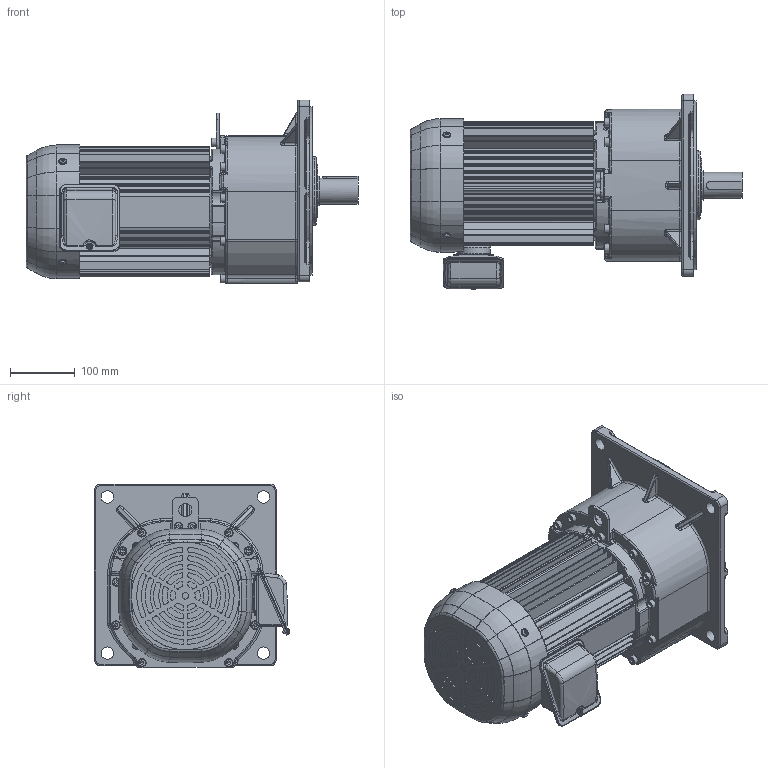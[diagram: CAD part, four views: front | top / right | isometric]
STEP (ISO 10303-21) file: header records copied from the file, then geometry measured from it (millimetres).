
FILE_DESCRIPTION( ( 'Unknown' ), '1' );
FILE_NAME( 'X:/gear/gm/3D-WEB/IE3/SP/ﾊﾟｰﾂ/完成品/spf_22_40-50.stp', 'Unknown', ( 'Unknown' ), ( 'Unknown' ), 'PSStep 14.0', 'Unknown', ' ' );
FILE_SCHEMA( ( 'AUTOMOTIVE_DESIGN { 1 0 10303 214 1 1 1 1 }' ) );
Length unit declared in the file: millimetre
Products named in the file (7): PF08923_Gﾊﾟｯｷﾝ(J40)
Bounding box: 511 x 300.35 x 283 mm (x, y, z)
Volume: 8104361.2 mm3; surface area: 1274565.3 mm2
Topology: 7 solids, 36 shells, 2177 faces, 5347 edges, 3282 vertices
Faces by surface type: cylinder 890, plane 723, torus 257, bspline 176, cone 89, sphere 42
Full cylindrical faces by diameter (mm): 3.8 x2, 4.2 x8, 4.8 x1, 5 x4, 5.5 x4, 5.6 x1, 5.8 x4, 6 x8, 6.8 x15, 7 x1, 8 x16, 8.2 x1, 9 x14, 9.5 x4, 10 x14, 12 x4, 13 x12, 13.5 x2, 19 x4, 20 x1, 23 x1, 25 x3, 28.6 x1, 40 x1, 45 x1, 45.1 x1, 45.5 x1, 48 x2, 50 x2, 51.2 x1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
Entity records: 103395 total; most frequent: CARTESIAN_POINT 35817, DIRECTION 11220, ORIENTED_EDGE 9814, EDGE_CURVE 4907, AXIS2_PLACEMENT_3D 4578, VERTEX_POINT 3162, EDGE_LOOP 2570, CIRCLE 2516
